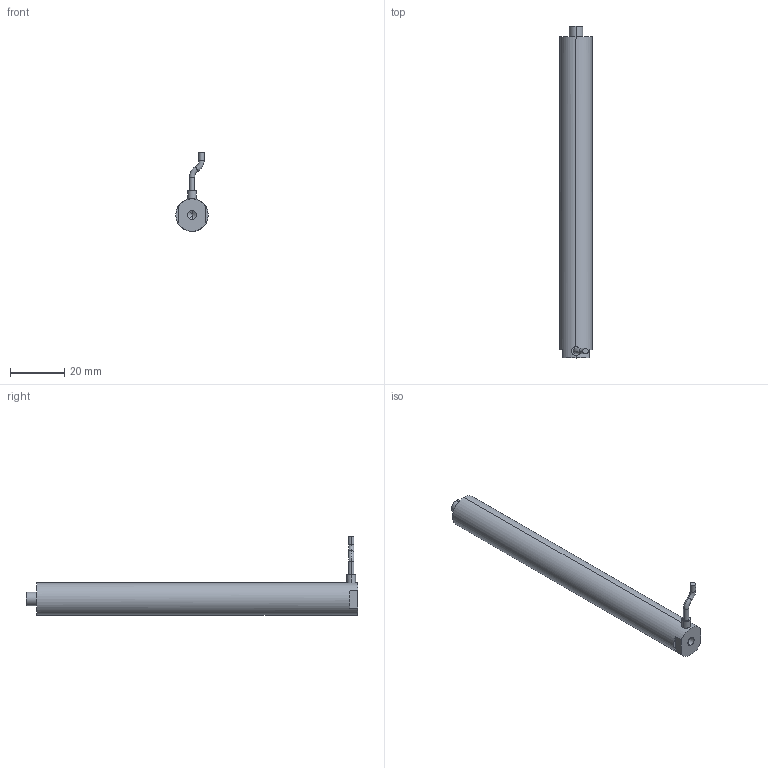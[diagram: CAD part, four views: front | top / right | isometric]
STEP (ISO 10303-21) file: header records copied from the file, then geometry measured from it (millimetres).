
FILE_DESCRIPTION (( 'STEP AP203' ), '1' );
FILE_NAME ('ƽͷʽ120VS12.STEP', '2020-08-19T06:09:09', ( 'User' ), ( 'china' ), 'SwSTEP 2.0', 'SolidWorks 2016', '' );
FILE_SCHEMA (( 'CONFIG_CONTROL_DESIGN' ));
Products named in the file (1): ƽͷʽ120VS12
Bounding box: 12 x 122.6 x 29.08 mm (x, y, z)
Volume: 13482.8 mm3; surface area: 4954.1 mm2
Topology: 1 solids, 1 shells, 969 faces, 2669 edges, 1775 vertices
Faces by surface type: bspline 525, plane 314, cylinder 124, torus 4, cone 2
Entity records: 45513 total; most frequent: CARTESIAN_POINT 25570, ORIENTED_EDGE 5334, EDGE_CURVE 2667, DIRECTION 2067, B_SPLINE_CURVE_WITH_KNOTS 1786, VERTEX_POINT 1775, EDGE_LOOP 1044, FACE_OUTER_BOUND 969
